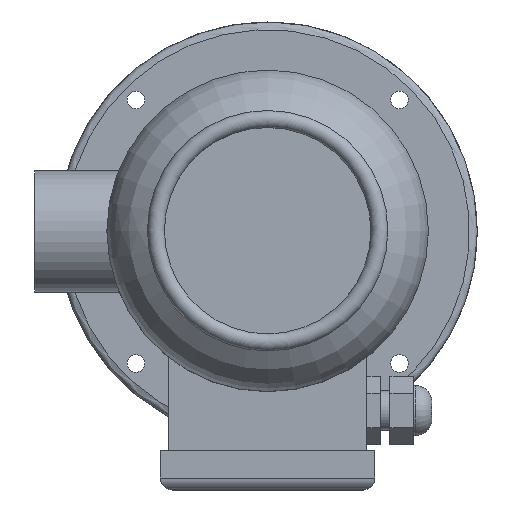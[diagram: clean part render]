
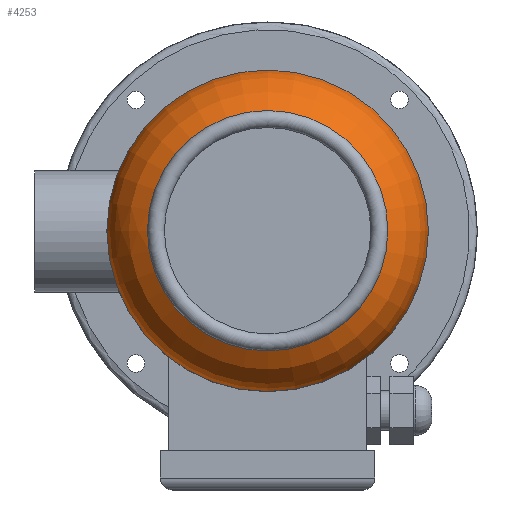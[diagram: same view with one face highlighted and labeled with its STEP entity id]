
A CAD part, top view. The second image highlights one B-rep face of the part: STEP entity #4253.
In plain terms, the highlighted toroidal (fillet/blend) face has major radius 37.539 mm and minor radius 32 mm.
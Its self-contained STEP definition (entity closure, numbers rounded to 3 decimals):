
#883=TOROIDAL_SURFACE('',#4595,37.539,32.);
#2124=ORIENTED_EDGE('',*,*,#2690,.T.);
#2125=ORIENTED_EDGE('',*,*,#2692,.T.);
#2690=EDGE_CURVE('',#3095,#3095,#3225,.F.);
#2692=EDGE_CURVE('',#3097,#3097,#3227,.T.);
#3095=VERTEX_POINT('',#9693);
#3097=VERTEX_POINT('',#9699);
#3225=CIRCLE('',#4590,68.997);
#3227=CIRCLE('',#4594,51.3);
#3604=EDGE_LOOP('',(#2124));
#3605=EDGE_LOOP('',(#2125));
#3982=FACE_BOUND('',#3604,.T.);
#3983=FACE_BOUND('',#3605,.T.);
#4253=ADVANCED_FACE('',(#3982,#3983),#883,.T.);
#4590=AXIS2_PLACEMENT_3D('',#9692,#5527,#5528);
#4594=AXIS2_PLACEMENT_3D('',#9698,#5535,#5536);
#4595=AXIS2_PLACEMENT_3D('',#9700,#5537,#5538);
#5527=DIRECTION('',(0.,0.,-1.));
#5528=DIRECTION('',(-1.,0.,0.));
#5535=DIRECTION('',(0.,0.,-1.));
#5536=DIRECTION('',(-1.,0.,0.));
#5537=DIRECTION('',(0.,0.,-1.));
#5538=DIRECTION('',(-1.,0.,0.));
#9692=CARTESIAN_POINT('',(0.,0.,355.558));
#9693=CARTESIAN_POINT('',(-68.997,0.,355.558));
#9698=CARTESIAN_POINT('',(0.,0.,378.586));
#9699=CARTESIAN_POINT('',(-51.3,0.,378.586));
#9700=CARTESIAN_POINT('',(0.,0.,349.696));
